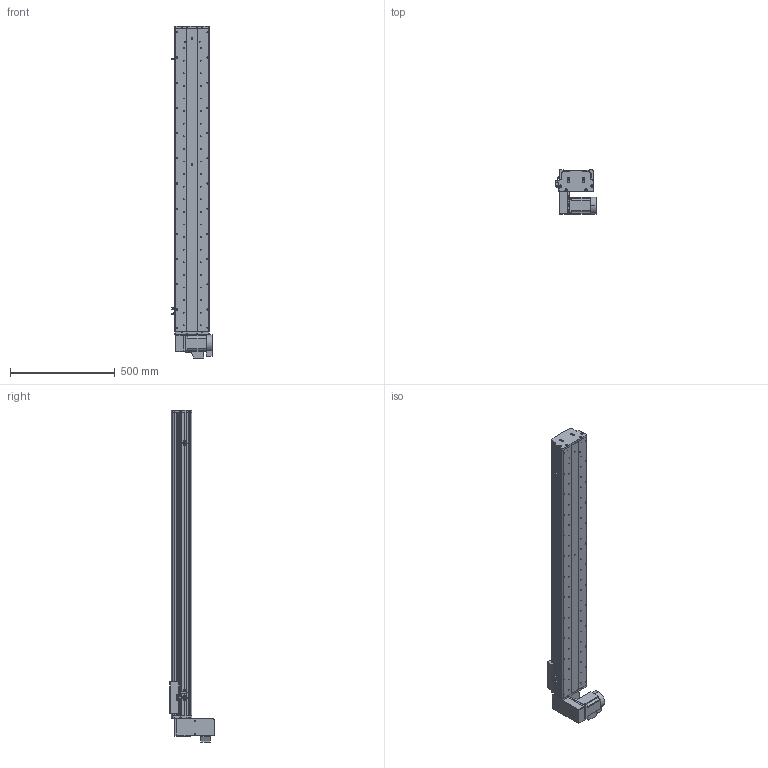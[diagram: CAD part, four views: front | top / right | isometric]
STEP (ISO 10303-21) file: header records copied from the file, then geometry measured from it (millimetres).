
FILE_DESCRIPTION (( 'STEP AP214' ), '1' );
FILE_NAME ('KSD165B-S1200-MLD-CM.STEP', '2017-10-16T07:22:16', ( '微软用户' ), ( '微软中国' ), 'SwSTEP 2.0', 'SolidWorks 2014', '' );
FILE_SCHEMA (( 'AUTOMOTIVE_DESIGN' ));
Length unit declared in the file: millimetre
Products named in the file (17): KSD165B-S1200-MLD-CM; 130宽模组马达安装板连板上下折丝杆同步带; 130宽模组保护罩上下左右折-同步带; HTPA26S5M250-A-H8 750W萇儂蚚; HTPA26S5M250-A-H8 400W萇儂蚚 ; 165宽马达安装板同步带左-改; KSD165模组-同步带防尘盖1-1200行程; KSD165模组同步带底板-1200行程; 拸秶雄ん750W侜督萇儂; U倰嫖萇假蚾璃; U倰嫖萇EEㄜSX672; 覜茼え68遵圉猾敕; KSD165模组-同步带-防撞垫2; KSD165模组同步带-防撞垫1; KSD165耀郪-ヶ傷啣1-肮祭湍; KSD165模组-后端板1-同步带; KSD165模组-同步带滑动座-最新版
Assembly tree (20 placements, depth 2):
  KSD165B-S1200-MLD-CM
    KSD165模组-同步带滑动座-最新版
    KSD165模组-后端板1-同步带
    KSD165耀郪-ヶ傷啣1-肮祭湍
    KSD165模组同步带-防撞垫1
    KSD165模组-同步带-防撞垫2
    覜茼え68遵圉猾敕
    U倰嫖萇EEㄜSX672  x3
    U倰嫖萇假蚾璃  x3
    拸秶雄ん750W侜督萇儂
    KSD165模组同步带底板-1200行程
    KSD165模组-同步带防尘盖1-1200行程
    165宽马达安装板同步带左-改
    HTPA26S5M250-A-H8 400W萇儂蚚 
    HTPA26S5M250-A-H8 750W萇儂蚚
    130宽模组保护罩上下左右折-同步带
    130宽模组马达安装板连板上下折丝杆同步带
Bounding box: 191.2 x 210 x 1581 mm (x, y, z)
Volume: 8816670 mm3; surface area: 2055350.1 mm2
Topology: 21 solids, 22 shells, 2011 faces, 5682 edges, 3712 vertices
Faces by surface type: cylinder 1305, plane 594, cone 112
Entity records: 65712 total; most frequent: CARTESIAN_POINT 13482, DIRECTION 10762, ORIENTED_EDGE 10024, EDGE_CURVE 5012, AXIS2_PLACEMENT_3D 4230, VERTEX_POINT 3304, CIRCLE 2416, LINE 2302
